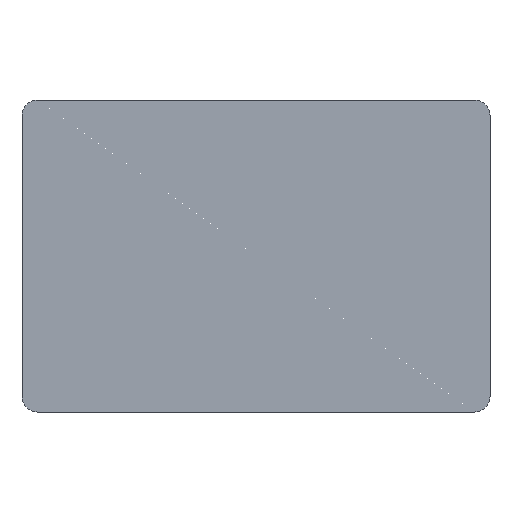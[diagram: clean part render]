
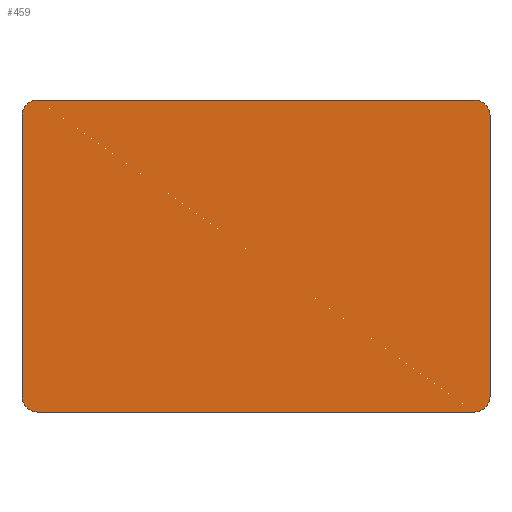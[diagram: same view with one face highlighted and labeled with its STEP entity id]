
A CAD part, front view. The second image highlights one B-rep face of the part: STEP entity #459.
In plain terms, the highlighted planar face has unit normal (0, -1, 0).
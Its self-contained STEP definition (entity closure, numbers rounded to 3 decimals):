
#50 = PLANE('',#51);
#51 = AXIS2_PLACEMENT_3D('',#52,#53,#54);
#52 = CARTESIAN_POINT('',(-15.,28.8,66.));
#53 = DIRECTION('',(1.,0.,0.));
#54 = DIRECTION('',(0.,1.,0.));
#75 = VERTEX_POINT('',#76);
#76 = CARTESIAN_POINT('',(-15.,28.8,65.));
#90 = CYLINDRICAL_SURFACE('',#91,1.);
#91 = AXIS2_PLACEMENT_3D('',#92,#93,#94);
#92 = CARTESIAN_POINT('',(-14.,28.8,65.));
#93 = DIRECTION('',(0.,1.,0.));
#94 = DIRECTION('',(-1.,0.,0.));
#102 = EDGE_CURVE('',#75,#103,#105,.T.);
#103 = VERTEX_POINT('',#104);
#104 = CARTESIAN_POINT('',(-15.,28.8,47.));
#105 = SURFACE_CURVE('',#106,(#110,#117),.PCURVE_S1.);
#106 = LINE('',#107,#108);
#107 = CARTESIAN_POINT('',(-15.,28.8,66.));
#108 = VECTOR('',#109,1.);
#109 = DIRECTION('',(0.,0.,-1.));
#110 = PCURVE('',#50,#111);
#111 = DEFINITIONAL_REPRESENTATION('',(#112),#116);
#112 = LINE('',#113,#114);
#113 = CARTESIAN_POINT('',(0.,0.));
#114 = VECTOR('',#115,1.);
#115 = DIRECTION('',(0.,-1.));
#116 = ( GEOMETRIC_REPRESENTATION_CONTEXT(2) 
PARAMETRIC_REPRESENTATION_CONTEXT() REPRESENTATION_CONTEXT('2D SPACE',''
  ) );
#117 = PCURVE('',#118,#123);
#118 = PLANE('',#119);
#119 = AXIS2_PLACEMENT_3D('',#120,#121,#122);
#120 = CARTESIAN_POINT('',(-15.,28.8,66.));
#121 = DIRECTION('',(0.,1.,0.));
#122 = DIRECTION('',(1.,0.,0.));
#123 = DEFINITIONAL_REPRESENTATION('',(#124),#128);
#124 = LINE('',#125,#126);
#125 = CARTESIAN_POINT('',(0.,0.));
#126 = VECTOR('',#127,1.);
#127 = DIRECTION('',(0.,1.));
#128 = ( GEOMETRIC_REPRESENTATION_CONTEXT(2) 
PARAMETRIC_REPRESENTATION_CONTEXT() REPRESENTATION_CONTEXT('2D SPACE',''
  ) );
#144 = CYLINDRICAL_SURFACE('',#145,1.);
#145 = AXIS2_PLACEMENT_3D('',#146,#147,#148);
#146 = CARTESIAN_POINT('',(-14.,28.8,47.));
#147 = DIRECTION('',(0.,1.,0.));
#148 = DIRECTION('',(-1.,0.,0.));
#200 = PLANE('',#201);
#201 = AXIS2_PLACEMENT_3D('',#202,#203,#204);
#202 = CARTESIAN_POINT('',(-15.,28.8,66.));
#203 = DIRECTION('',(0.,0.,-1.));
#204 = DIRECTION('',(0.,1.,0.));
#233 = CYLINDRICAL_SURFACE('',#234,1.);
#234 = AXIS2_PLACEMENT_3D('',#235,#236,#237);
#235 = CARTESIAN_POINT('',(14.,28.8,65.));
#236 = DIRECTION('',(0.,1.,0.));
#237 = DIRECTION('',(1.,0.,0.));
#261 = PLANE('',#262);
#262 = AXIS2_PLACEMENT_3D('',#263,#264,#265);
#263 = CARTESIAN_POINT('',(15.,28.8,66.));
#264 = DIRECTION('',(1.,0.,0.));
#265 = DIRECTION('',(0.,1.,0.));
#290 = CYLINDRICAL_SURFACE('',#291,1.);
#291 = AXIS2_PLACEMENT_3D('',#292,#293,#294);
#292 = CARTESIAN_POINT('',(14.,28.8,47.));
#293 = DIRECTION('',(0.,1.,0.));
#294 = DIRECTION('',(1.,0.,0.));
#318 = PLANE('',#319);
#319 = AXIS2_PLACEMENT_3D('',#320,#321,#322);
#320 = CARTESIAN_POINT('',(-15.,28.8,46.));
#321 = DIRECTION('',(0.,0.,-1.));
#322 = DIRECTION('',(0.,1.,0.));
#359 = EDGE_CURVE('',#75,#360,#362,.T.);
#360 = VERTEX_POINT('',#361);
#361 = CARTESIAN_POINT('',(-14.,28.8,66.));
#362 = SURFACE_CURVE('',#363,(#368,#375),.PCURVE_S1.);
#363 = CIRCLE('',#364,1.);
#364 = AXIS2_PLACEMENT_3D('',#365,#366,#367);
#365 = CARTESIAN_POINT('',(-14.,28.8,65.));
#366 = DIRECTION('',(-0.,1.,0.));
#367 = DIRECTION('',(0.,0.,1.));
#368 = PCURVE('',#90,#369);
#369 = DEFINITIONAL_REPRESENTATION('',(#370),#374);
#370 = LINE('',#371,#372);
#371 = CARTESIAN_POINT('',(-4.712,0.));
#372 = VECTOR('',#373,1.);
#373 = DIRECTION('',(1.,0.));
#374 = ( GEOMETRIC_REPRESENTATION_CONTEXT(2) 
PARAMETRIC_REPRESENTATION_CONTEXT() REPRESENTATION_CONTEXT('2D SPACE',''
  ) );
#375 = PCURVE('',#118,#376);
#376 = DEFINITIONAL_REPRESENTATION('',(#377),#381);
#377 = CIRCLE('',#378,1.);
#378 = AXIS2_PLACEMENT_2D('',#379,#380);
#379 = CARTESIAN_POINT('',(1.,1.));
#380 = DIRECTION('',(0.,-1.));
#381 = ( GEOMETRIC_REPRESENTATION_CONTEXT(2) 
PARAMETRIC_REPRESENTATION_CONTEXT() REPRESENTATION_CONTEXT('2D SPACE',''
  ) );
#409 = EDGE_CURVE('',#103,#410,#412,.T.);
#410 = VERTEX_POINT('',#411);
#411 = CARTESIAN_POINT('',(-14.,28.8,46.));
#412 = SURFACE_CURVE('',#413,(#418,#425),.PCURVE_S1.);
#413 = CIRCLE('',#414,1.);
#414 = AXIS2_PLACEMENT_3D('',#415,#416,#417);
#415 = CARTESIAN_POINT('',(-14.,28.8,47.));
#416 = DIRECTION('',(-0.,-1.,0.));
#417 = DIRECTION('',(0.,0.,1.));
#418 = PCURVE('',#144,#419);
#419 = DEFINITIONAL_REPRESENTATION('',(#420),#424);
#420 = LINE('',#421,#422);
#421 = CARTESIAN_POINT('',(1.571,-0.));
#422 = VECTOR('',#423,1.);
#423 = DIRECTION('',(-1.,0.));
#424 = ( GEOMETRIC_REPRESENTATION_CONTEXT(2) 
PARAMETRIC_REPRESENTATION_CONTEXT() REPRESENTATION_CONTEXT('2D SPACE',''
  ) );
#425 = PCURVE('',#118,#426);
#426 = DEFINITIONAL_REPRESENTATION('',(#427),#435);
#427 = ( BOUNDED_CURVE() B_SPLINE_CURVE(2,(#428,#429,#430,#431,#432,#433
,#434),.UNSPECIFIED.,.T.,.F.) B_SPLINE_CURVE_WITH_KNOTS((1,2,2,2,2,1),(
    -2.094,0.,2.094,4.189,6.283,
8.378),.UNSPECIFIED.) CURVE() GEOMETRIC_REPRESENTATION_ITEM() 
RATIONAL_B_SPLINE_CURVE((1.,0.5,1.,0.5,1.,0.5,1.)) REPRESENTATION_ITEM(
  '') );
#428 = CARTESIAN_POINT('',(1.,18.));
#429 = CARTESIAN_POINT('',(-0.732,18.));
#430 = CARTESIAN_POINT('',(0.134,19.5));
#431 = CARTESIAN_POINT('',(1.,21.));
#432 = CARTESIAN_POINT('',(1.866,19.5));
#433 = CARTESIAN_POINT('',(2.732,18.));
#434 = CARTESIAN_POINT('',(1.,18.));
#435 = ( GEOMETRIC_REPRESENTATION_CONTEXT(2) 
PARAMETRIC_REPRESENTATION_CONTEXT() REPRESENTATION_CONTEXT('2D SPACE',''
  ) );
#459 = ADVANCED_FACE('',(#460),#118,.F.);
#460 = FACE_BOUND('',#461,.F.);
#461 = EDGE_LOOP('',(#462,#463,#464,#487,#515,#538,#562,#583));
#462 = ORIENTED_EDGE('',*,*,#102,.F.);
#463 = ORIENTED_EDGE('',*,*,#359,.T.);
#464 = ORIENTED_EDGE('',*,*,#465,.T.);
#465 = EDGE_CURVE('',#360,#466,#468,.T.);
#466 = VERTEX_POINT('',#467);
#467 = CARTESIAN_POINT('',(14.,28.8,66.));
#468 = SURFACE_CURVE('',#469,(#473,#480),.PCURVE_S1.);
#469 = LINE('',#470,#471);
#470 = CARTESIAN_POINT('',(-15.,28.8,66.));
#471 = VECTOR('',#472,1.);
#472 = DIRECTION('',(1.,0.,0.));
#473 = PCURVE('',#118,#474);
#474 = DEFINITIONAL_REPRESENTATION('',(#475),#479);
#475 = LINE('',#476,#477);
#476 = CARTESIAN_POINT('',(0.,0.));
#477 = VECTOR('',#478,1.);
#478 = DIRECTION('',(1.,0.));
#479 = ( GEOMETRIC_REPRESENTATION_CONTEXT(2) 
PARAMETRIC_REPRESENTATION_CONTEXT() REPRESENTATION_CONTEXT('2D SPACE',''
  ) );
#480 = PCURVE('',#200,#481);
#481 = DEFINITIONAL_REPRESENTATION('',(#482),#486);
#482 = LINE('',#483,#484);
#483 = CARTESIAN_POINT('',(0.,0.));
#484 = VECTOR('',#485,1.);
#485 = DIRECTION('',(0.,1.));
#486 = ( GEOMETRIC_REPRESENTATION_CONTEXT(2) 
PARAMETRIC_REPRESENTATION_CONTEXT() REPRESENTATION_CONTEXT('2D SPACE',''
  ) );
#487 = ORIENTED_EDGE('',*,*,#488,.F.);
#488 = EDGE_CURVE('',#489,#466,#491,.T.);
#489 = VERTEX_POINT('',#490);
#490 = CARTESIAN_POINT('',(15.,28.8,65.));
#491 = SURFACE_CURVE('',#492,(#497,#508),.PCURVE_S1.);
#492 = CIRCLE('',#493,1.);
#493 = AXIS2_PLACEMENT_3D('',#494,#495,#496);
#494 = CARTESIAN_POINT('',(14.,28.8,65.));
#495 = DIRECTION('',(-0.,-1.,0.));
#496 = DIRECTION('',(0.,0.,1.));
#497 = PCURVE('',#118,#498);
#498 = DEFINITIONAL_REPRESENTATION('',(#499),#507);
#499 = ( BOUNDED_CURVE() B_SPLINE_CURVE(2,(#500,#501,#502,#503,#504,#505
,#506),.UNSPECIFIED.,.T.,.F.) B_SPLINE_CURVE_WITH_KNOTS((1,2,2,2,2,1),(
    -2.094,0.,2.094,4.189,6.283,
8.378),.UNSPECIFIED.) CURVE() GEOMETRIC_REPRESENTATION_ITEM() 
RATIONAL_B_SPLINE_CURVE((1.,0.5,1.,0.5,1.,0.5,1.)) REPRESENTATION_ITEM(
  '') );
#500 = CARTESIAN_POINT('',(29.,0.));
#501 = CARTESIAN_POINT('',(27.268,0.));
#502 = CARTESIAN_POINT('',(28.134,1.5));
#503 = CARTESIAN_POINT('',(29.,3.));
#504 = CARTESIAN_POINT('',(29.866,1.5));
#505 = CARTESIAN_POINT('',(30.732,0.));
#506 = CARTESIAN_POINT('',(29.,0.));
#507 = ( GEOMETRIC_REPRESENTATION_CONTEXT(2) 
PARAMETRIC_REPRESENTATION_CONTEXT() REPRESENTATION_CONTEXT('2D SPACE',''
  ) );
#508 = PCURVE('',#233,#509);
#509 = DEFINITIONAL_REPRESENTATION('',(#510),#514);
#510 = LINE('',#511,#512);
#511 = CARTESIAN_POINT('',(4.712,-0.));
#512 = VECTOR('',#513,1.);
#513 = DIRECTION('',(-1.,0.));
#514 = ( GEOMETRIC_REPRESENTATION_CONTEXT(2) 
PARAMETRIC_REPRESENTATION_CONTEXT() REPRESENTATION_CONTEXT('2D SPACE',''
  ) );
#515 = ORIENTED_EDGE('',*,*,#516,.T.);
#516 = EDGE_CURVE('',#489,#517,#519,.T.);
#517 = VERTEX_POINT('',#518);
#518 = CARTESIAN_POINT('',(15.,28.8,47.));
#519 = SURFACE_CURVE('',#520,(#524,#531),.PCURVE_S1.);
#520 = LINE('',#521,#522);
#521 = CARTESIAN_POINT('',(15.,28.8,66.));
#522 = VECTOR('',#523,1.);
#523 = DIRECTION('',(0.,0.,-1.));
#524 = PCURVE('',#118,#525);
#525 = DEFINITIONAL_REPRESENTATION('',(#526),#530);
#526 = LINE('',#527,#528);
#527 = CARTESIAN_POINT('',(30.,0.));
#528 = VECTOR('',#529,1.);
#529 = DIRECTION('',(0.,1.));
#530 = ( GEOMETRIC_REPRESENTATION_CONTEXT(2) 
PARAMETRIC_REPRESENTATION_CONTEXT() REPRESENTATION_CONTEXT('2D SPACE',''
  ) );
#531 = PCURVE('',#261,#532);
#532 = DEFINITIONAL_REPRESENTATION('',(#533),#537);
#533 = LINE('',#534,#535);
#534 = CARTESIAN_POINT('',(0.,0.));
#535 = VECTOR('',#536,1.);
#536 = DIRECTION('',(0.,-1.));
#537 = ( GEOMETRIC_REPRESENTATION_CONTEXT(2) 
PARAMETRIC_REPRESENTATION_CONTEXT() REPRESENTATION_CONTEXT('2D SPACE',''
  ) );
#538 = ORIENTED_EDGE('',*,*,#539,.T.);
#539 = EDGE_CURVE('',#517,#540,#542,.T.);
#540 = VERTEX_POINT('',#541);
#541 = CARTESIAN_POINT('',(14.,28.8,46.));
#542 = SURFACE_CURVE('',#543,(#548,#555),.PCURVE_S1.);
#543 = CIRCLE('',#544,1.);
#544 = AXIS2_PLACEMENT_3D('',#545,#546,#547);
#545 = CARTESIAN_POINT('',(14.,28.8,47.));
#546 = DIRECTION('',(-0.,1.,0.));
#547 = DIRECTION('',(0.,0.,1.));
#548 = PCURVE('',#118,#549);
#549 = DEFINITIONAL_REPRESENTATION('',(#550),#554);
#550 = CIRCLE('',#551,1.);
#551 = AXIS2_PLACEMENT_2D('',#552,#553);
#552 = CARTESIAN_POINT('',(29.,19.));
#553 = DIRECTION('',(0.,-1.));
#554 = ( GEOMETRIC_REPRESENTATION_CONTEXT(2) 
PARAMETRIC_REPRESENTATION_CONTEXT() REPRESENTATION_CONTEXT('2D SPACE',''
  ) );
#555 = PCURVE('',#290,#556);
#556 = DEFINITIONAL_REPRESENTATION('',(#557),#561);
#557 = LINE('',#558,#559);
#558 = CARTESIAN_POINT('',(-1.571,0.));
#559 = VECTOR('',#560,1.);
#560 = DIRECTION('',(1.,0.));
#561 = ( GEOMETRIC_REPRESENTATION_CONTEXT(2) 
PARAMETRIC_REPRESENTATION_CONTEXT() REPRESENTATION_CONTEXT('2D SPACE',''
  ) );
#562 = ORIENTED_EDGE('',*,*,#563,.F.);
#563 = EDGE_CURVE('',#410,#540,#564,.T.);
#564 = SURFACE_CURVE('',#565,(#569,#576),.PCURVE_S1.);
#565 = LINE('',#566,#567);
#566 = CARTESIAN_POINT('',(-15.,28.8,46.));
#567 = VECTOR('',#568,1.);
#568 = DIRECTION('',(1.,0.,0.));
#569 = PCURVE('',#118,#570);
#570 = DEFINITIONAL_REPRESENTATION('',(#571),#575);
#571 = LINE('',#572,#573);
#572 = CARTESIAN_POINT('',(0.,20.));
#573 = VECTOR('',#574,1.);
#574 = DIRECTION('',(1.,0.));
#575 = ( GEOMETRIC_REPRESENTATION_CONTEXT(2) 
PARAMETRIC_REPRESENTATION_CONTEXT() REPRESENTATION_CONTEXT('2D SPACE',''
  ) );
#576 = PCURVE('',#318,#577);
#577 = DEFINITIONAL_REPRESENTATION('',(#578),#582);
#578 = LINE('',#579,#580);
#579 = CARTESIAN_POINT('',(0.,0.));
#580 = VECTOR('',#581,1.);
#581 = DIRECTION('',(0.,1.));
#582 = ( GEOMETRIC_REPRESENTATION_CONTEXT(2) 
PARAMETRIC_REPRESENTATION_CONTEXT() REPRESENTATION_CONTEXT('2D SPACE',''
  ) );
#583 = ORIENTED_EDGE('',*,*,#409,.F.);
